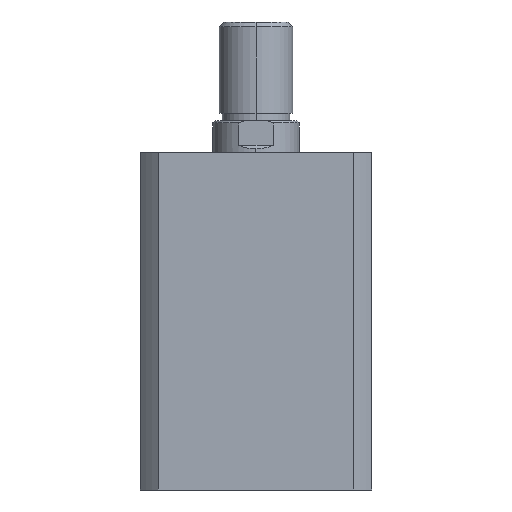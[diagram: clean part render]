
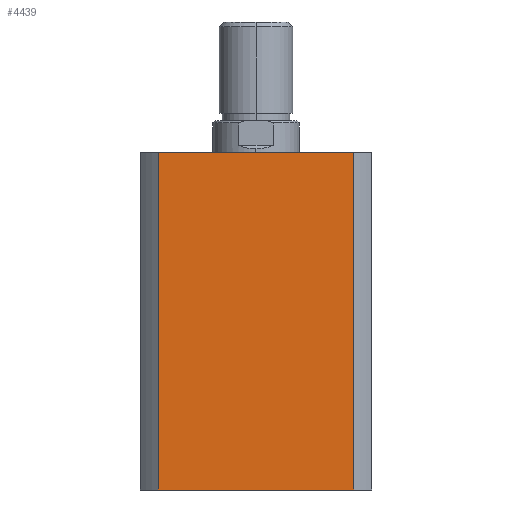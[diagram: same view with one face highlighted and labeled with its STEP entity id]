
A CAD part, left-side view. The second image highlights one B-rep face of the part: STEP entity #4439.
In plain terms, the highlighted planar face has unit normal (-1, 0, 0).
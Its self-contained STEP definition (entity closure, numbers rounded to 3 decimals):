
#323 = AXIS2_PLACEMENT_3D ( 'NONE', #1996, #1997, #1998 ) ;
#1177 = VERTEX_POINT ( 'NONE', #2972 ) ;
#1178 = VERTEX_POINT ( 'NONE', #2971 ) ;
#1197 = VERTEX_POINT ( 'NONE', #2950 ) ;
#1198 = VERTEX_POINT ( 'NONE', #2949 ) ;
#1503 = DIRECTION ( 'NONE',  ( 0., -1., 0. ) ) ;
#1508 = CARTESIAN_POINT ( 'NONE',  ( -47., 0., 137. ) ) ;
#1993 = PLANE ( 'NONE',  #323 ) ;
#1996 = CARTESIAN_POINT ( 'NONE',  ( -47., 0., 137. ) ) ;
#1997 = DIRECTION ( 'NONE',  ( 1., 0., 0. ) ) ;
#1998 = DIRECTION ( 'NONE',  ( 0., 0., -1. ) ) ;
#2430 = EDGE_CURVE ( 'NONE', #1177, #1178, #4957, .T. ) ;
#2463 = EDGE_CURVE ( 'NONE', #1177, #1197, #4999, .T. ) ;
#2464 = EDGE_CURVE ( 'NONE', #1197, #1198, #4997, .T. ) ;
#2465 = EDGE_CURVE ( 'NONE', #1178, #1198, #5002, .T. ) ;
#2588 = DIRECTION ( 'NONE',  ( 0., 0., -1. ) ) ;
#2595 = CARTESIAN_POINT ( 'NONE',  ( -47., 39.664, 137. ) ) ;
#2597 = CARTESIAN_POINT ( 'NONE',  ( -47., 0., 0. ) ) ;
#2602 = DIRECTION ( 'NONE',  ( 0., -1., 0. ) ) ;
#2603 = CARTESIAN_POINT ( 'NONE',  ( -47., -39.664, 137. ) ) ;
#2605 = DIRECTION ( 'NONE',  ( 0., 0., -1. ) ) ;
#2693 = EDGE_LOOP ( 'NONE', ( #4121, #4122, #4123, #4124 ) ) ;
#2949 = CARTESIAN_POINT ( 'NONE',  ( -47., -39.664, 0. ) ) ;
#2950 = CARTESIAN_POINT ( 'NONE',  ( -47., 39.664, 0. ) ) ;
#2971 = CARTESIAN_POINT ( 'NONE',  ( -47., -39.664, 137. ) ) ;
#2972 = CARTESIAN_POINT ( 'NONE',  ( -47., 39.664, 137. ) ) ;
#4121 = ORIENTED_EDGE ( 'NONE', *, *, #2464, .T. ) ;
#4122 = ORIENTED_EDGE ( 'NONE', *, *, #2465, .F. ) ;
#4123 = ORIENTED_EDGE ( 'NONE', *, *, #2430, .F. ) ;
#4124 = ORIENTED_EDGE ( 'NONE', *, *, #2463, .T. ) ;
#4439 = ADVANCED_FACE ( 'NONE', ( #4748 ), #1993, .F. ) ;
#4748 = FACE_OUTER_BOUND ( 'NONE', #2693, .T. ) ;
#4957 = LINE ( 'NONE', #1508, #4959 ) ;
#4959 = VECTOR ( 'NONE', #1503, 1000. ) ;
#4997 = LINE ( 'NONE', #2597, #5003 ) ;
#4999 = LINE ( 'NONE', #2595, #5001 ) ;
#5001 = VECTOR ( 'NONE', #2588, 1000. ) ;
#5002 = LINE ( 'NONE', #2603, #5005 ) ;
#5003 = VECTOR ( 'NONE', #2602, 1000. ) ;
#5005 = VECTOR ( 'NONE', #2605, 1000. ) ;
